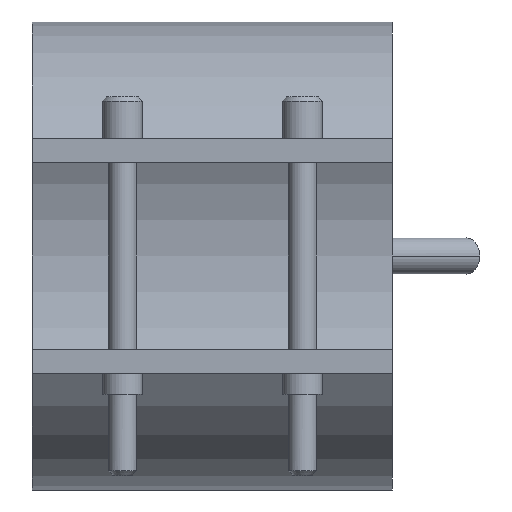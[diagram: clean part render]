
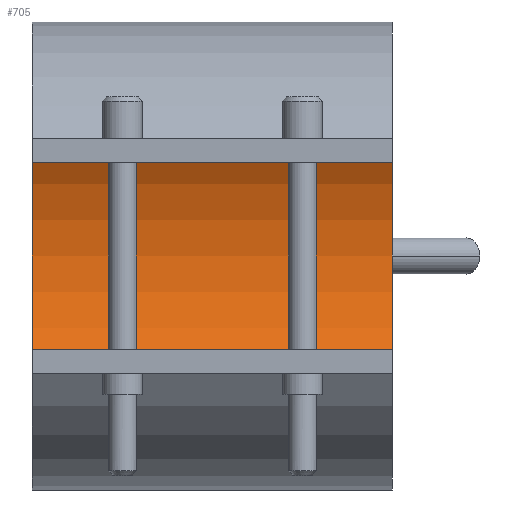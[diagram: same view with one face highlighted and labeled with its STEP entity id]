
A CAD part, front view. The second image highlights one B-rep face of the part: STEP entity #705.
In plain terms, the highlighted cylindrical face has radius 35 mm (diameter 70 mm), a partial arc.
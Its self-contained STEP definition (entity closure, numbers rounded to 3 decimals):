
#375=CARTESIAN_POINT('Vertex',(30.,0.,35.)) ;
#380=CARTESIAN_POINT('Axis2P3D Location',(30.,0.,0.)) ;
#384=CARTESIAN_POINT('Vertex',(30.,0.,-35.)) ;
#491=CARTESIAN_POINT('Vertex',(-30.,0.,-35.)) ;
#494=CARTESIAN_POINT('Axis2P3D Location',(-30.,0.,0.)) ;
#498=CARTESIAN_POINT('Vertex',(-30.,0.,35.)) ;
#677=CARTESIAN_POINT('Line Origine',(30.,0.,35.)) ;
#689=CARTESIAN_POINT('Axis2P3D Location',(30.,0.,0.)) ;
#694=CARTESIAN_POINT('Line Origine',(30.,0.,-35.)) ;
#381=DIRECTION('Axis2P3D Direction',(1.,0.,0.)) ;
#495=DIRECTION('Axis2P3D Direction',(1.,0.,0.)) ;
#678=DIRECTION('Vector Direction',(1.,0.,0.)) ;
#690=DIRECTION('Axis2P3D Direction',(1.,0.,-0.)) ;
#691=DIRECTION('Axis2P3D XDirection',(0.,0.,-1.)) ;
#695=DIRECTION('Vector Direction',(1.,0.,0.)) ;
#382=AXIS2_PLACEMENT_3D('Circle Axis2P3D',#380,#381,$) ;
#496=AXIS2_PLACEMENT_3D('Circle Axis2P3D',#494,#495,$) ;
#692=AXIS2_PLACEMENT_3D('Cylinder Axis2P3D',#689,#690,#691) ;
#700=ORIENTED_EDGE('',*,*,#386,.T.) ;
#701=ORIENTED_EDGE('',*,*,#681,.T.) ;
#702=ORIENTED_EDGE('',*,*,#500,.F.) ;
#703=ORIENTED_EDGE('',*,*,#698,.T.) ;
#679=VECTOR('Line Direction',#678,1.) ;
#696=VECTOR('Line Direction',#695,1.) ;
#705=ADVANCED_FACE('29070060',(#704),#693,.F.) ;
#383=CIRCLE('generated circle',#382,35.) ;
#497=CIRCLE('generated circle',#496,35.) ;
#693=CYLINDRICAL_SURFACE('generated cylinder',#692,35.) ;
#386=EDGE_CURVE('',#385,#376,#383,.T.) ;
#500=EDGE_CURVE('',#492,#499,#497,.T.) ;
#681=EDGE_CURVE('',#376,#499,#680,.F.) ;
#698=EDGE_CURVE('',#492,#385,#697,.T.) ;
#699=EDGE_LOOP('',(#700,#701,#702,#703)) ;
#704=FACE_OUTER_BOUND('',#699,.T.) ;
#680=LINE('Line',#677,#679) ;
#697=LINE('Line',#694,#696) ;
#376=VERTEX_POINT('',#375) ;
#385=VERTEX_POINT('',#384) ;
#492=VERTEX_POINT('',#491) ;
#499=VERTEX_POINT('',#498) ;
